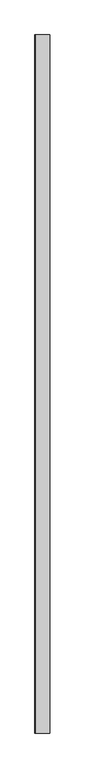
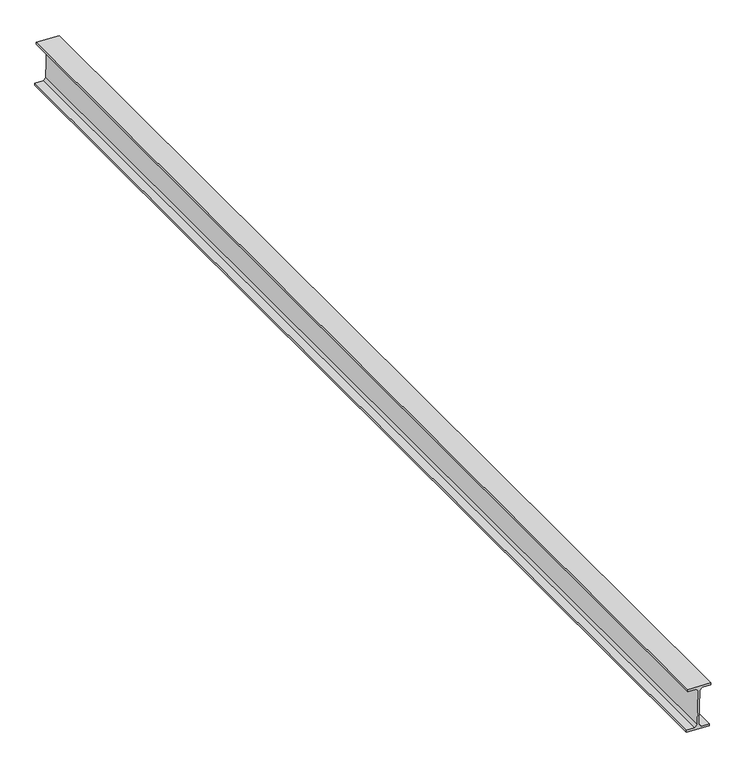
"""IFC4 building model written with IfcOpenShell, lengths in millimetres: beam geometry, Panne 10439 : Panne 10439."""

from ifc_helpers import new_model, si_unit, frame, origin, place, context, project, spatial, polyline, outline, extrude, source, transform, mapped, element, save


def beam_0ae16295(model_context):
    return source(origin(), model_context, "Body", "SweptSolid", [
        extrude(outline(polyline([(7871.6986627, 55.5549556), (7879.0943892, 55.8064103), (7880.09681, 26.3234465), (7889.3974358, 17.6344673), (8016.5239779, 21.9567697), (8025.2129571, 31.2573955), (8024.2105363, 60.7403593), (8031.6062628, 60.991814), (8034.3926528, -20.9608311), (8026.9969263, -21.2122858), (8025.9945055, 8.270678), (8016.6938797, 16.9596572), (7889.5673376, 12.6373548), (7880.8783584, 3.336729), (7881.8807792, -26.1462348), (7874.4850527, -26.3976895), (7871.6986627, 55.5549556)])), frame((0.0, -12733.5, 0.0), z_axis=(0.0, 1.0, 0.0), x_axis=(0.0, 0.0, 1.0)), (0.0, 0.0, 1.0), 4048.5),
    ])


if __name__ == "__main__":
    model = new_model("IFC4")
    model_context = context("Model", 3, world=origin())
    ifc_project = project(units=[si_unit("LENGTHUNIT", "METRE", prefix="MILLI")], contexts=[model_context])
    site = spatial("IfcSite", under=ifc_project)
    building = spatial("IfcBuilding", under=site)
    placement = place(None, origin())
    beam_shape = beam_0ae16295(model_context)
    element("IfcBeam", 1, ObjectType="Panne 10439 : Panne 10439", at=placement, inside=building, context=model_context, shape_type="MappedRepresentation", body=[
        mapped(beam_shape, transform((0.0, 0.0, 0.0), x_axis=(1.0, 0.0, 0.0), y_axis=(0.0, 1.0, 0.0), z_axis=(0.0, 0.0, 1.0))),
    ])
    save(model, "model.ifc")
